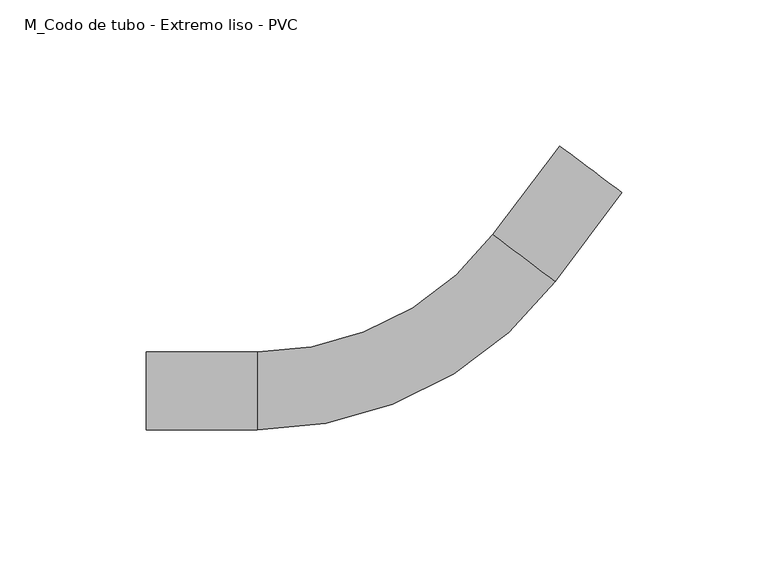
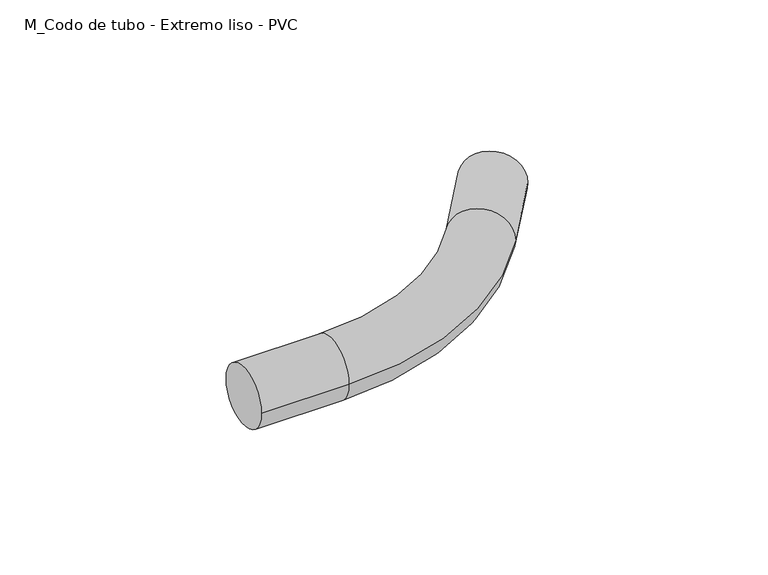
"""IFC4 building model written with IfcOpenShell, lengths in millimetres: cable carrier fitting geometry, M_Codo de tubo - Extremo liso - PVC : CODO ILUMINACION."""

from ifc_helpers import new_model, si_unit, point, frame, origin, place, context, project, spatial, circle_curve, ellipse_curve, trimmed, source, transform, mapped, element, save
from ifc_brep_helpers import plane_surface, cylinder_surface, revolved_surface, advanced_brep


def m_codo_de_tubo_extremo_liso_pvc_c9202d06(model_context):
    return source(origin(), model_context, "Body", "AdvancedBrep", [
        advanced_brep(
        [(-95.0878778, -13.335, 0.0), (-95.0878778, 13.335, 0.0), (-56.9878778, -13.335, 0.0), (-56.9878778, 13.335, 0.0), (23.6463565, 53.5377462, 0.0), (44.9459655, 37.4873395, 0.0), (67.8751179, 67.9153525, 0.0), (46.5755089, 83.9657591, 0.0)],
        [
            (0, 1, circle_curve(frame((-95.0878778, 0.0, 0.0), z_axis=(-1.0, 0.0, 0.0), x_axis=(0.0, 1.0, 0.0)), 13.335)),
            (1, 0, circle_curve(frame((-95.0878778, 0.0, 0.0), z_axis=(-1.0, 0.0, 0.0), x_axis=(0.0, 1.0, 0.0)), 13.335)),
            (0, 2),
            (2, 3, circle_curve(frame((-56.9878778, 0.0, 0.0), z_axis=(-1.0, 0.0, 0.0), x_axis=(0.0, 1.0, 0.0)), 13.335)),
            (3, 1),
            (3, 2, circle_curve(frame((-56.9878778, 0.0, 0.0), z_axis=(-1.0, 0.0, 0.0), x_axis=(0.0, 1.0, 0.0)), 13.335)),
            (4, 3, circle_curve(frame((-56.9878778, 114.3, 0.0), z_axis=(0.0, 0.0, -1.0), x_axis=(0.0, -1.0, 0.0)), 100.965)),
            (2, 5, circle_curve(frame((-56.9878778, 114.3, 0.0), z_axis=(0.0, 0.0, 1.0), x_axis=(0.0, -1.0, 0.0)), 127.635)),
            (5, 4, circle_curve(frame((34.296161, 45.5125429, 0.0), z_axis=(-0.601815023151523, -0.7986355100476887, 0.0), x_axis=(-0.7986355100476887, 0.601815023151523, 0.0)), 13.335)),
            (4, 5, circle_curve(frame((34.296161, 45.5125429, 0.0), z_axis=(-0.601815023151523, -0.7986355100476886, 0.0), x_axis=(-0.7986355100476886, 0.601815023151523, 0.0)), 13.335)),
            (6, 7, circle_curve(frame((57.2253134, 75.9405558, 0.0), z_axis=(0.601815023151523, 0.7986355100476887, 0.0), x_axis=(-0.7986355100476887, 0.601815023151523, 0.0)), 13.335)),
            (7, 6, circle_curve(frame((57.2253134, 75.9405558, 0.0), z_axis=(0.601815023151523, 0.7986355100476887, 0.0), x_axis=(-0.7986355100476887, 0.601815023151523, 0.0)), 13.335)),
            (5, 6),
            (7, 4),
        ],
        [
            plane_surface(frame((-95.0878778, 0.0, 0.0), z_axis=(-1.0, 0.0, 0.0), x_axis=(0.0, 0.0, 1.0))),
            cylinder_surface(frame((-95.0878778, 0.0, 0.0), z_axis=(-1.0, 0.0, 0.0), x_axis=(0.0, 1.0, 0.0)), 13.335),
            revolved_surface(trimmed(ellipse_curve(frame((-56.9878778, 0.0, 0.0), z_axis=(-1.0, 0.0, 0.0), x_axis=(0.0, 1.0, 0.0)), 13.335, 13.335), [point((-56.9878778, -13.335, 0.0))], [point((-56.9878778, 13.335, 0.0))], True, "CARTESIAN"), (-56.9878778, 114.3, 0.0), (0.0, 0.0, 1.0)),
            revolved_surface(trimmed(ellipse_curve(frame((-56.9878778, 0.0, 0.0), z_axis=(-1.0, 0.0, 0.0), x_axis=(0.0, 1.0, 0.0)), 13.335, 13.335), [point((-56.9878778, 13.335, 0.0))], [point((-56.9878778, -13.335, 0.0))], True, "CARTESIAN"), (-56.9878778, 114.3, 0.0), (0.0, 0.0, 1.0)),
            plane_surface(frame((57.2253134, 75.9405558, 0.0), z_axis=(0.6018150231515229, 0.7986355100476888, 0.0), x_axis=(0.0, 0.0, 1.0))),
            cylinder_surface(frame((34.296161, 45.5125429, 0.0), z_axis=(-0.601815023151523, -0.7986355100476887, 0.0), x_axis=(-0.7986355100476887, 0.601815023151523, 0.0)), 13.335),
        ],
        [
            (0, [[1, 2]]),
            (1, [[-1, 3, 4, 5]]),
            (1, [[-2, -5, 6, -3]]),
            (2, [[7, -4, 8, 9]]),
            (3, [[-8, -6, -7, 10]]),
            (4, [[11, 12]]),
            (5, [[-9, 13, -12, 14]]),
            (5, [[-10, -14, -11, -13]]),
        ],
    ),
    ])


if __name__ == "__main__":
    model = new_model("IFC4")
    model_context = context("Model", 3, world=origin())
    ifc_project = project(units=[si_unit("LENGTHUNIT", "METRE", prefix="MILLI")], contexts=[model_context])
    site = spatial("IfcSite", under=ifc_project)
    building = spatial("IfcBuilding", under=site)
    placement = place(None, origin())
    m_codo_de_tubo_extremo_liso_pvc_shape = m_codo_de_tubo_extremo_liso_pvc_c9202d06(model_context)
    element("IfcCableCarrierFitting", 1, ObjectType="M_Codo de tubo - Extremo liso - PVC : CODO ILUMINACION", at=placement, inside=building, context=model_context, shape_type="MappedRepresentation", body=[
        mapped(m_codo_de_tubo_extremo_liso_pvc_shape, transform((0.0, 0.0, 0.0), x_axis=(1.0, 0.0, 0.0), y_axis=(0.0, 1.0, 0.0), z_axis=(0.0, 0.0, 1.0))),
    ])
    save(model, "model.ifc")
